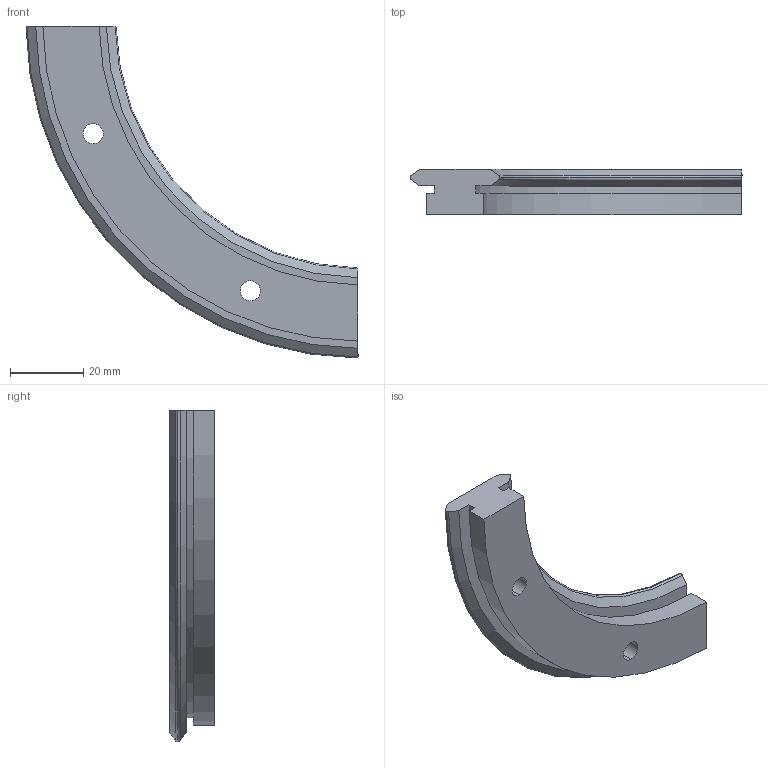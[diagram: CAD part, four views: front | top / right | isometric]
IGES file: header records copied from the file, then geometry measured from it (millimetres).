
Start section: 3D InterOp IGES (v. 2020 1.0.1), Spatial Corp. Copyright (c) 1999-2017.
Global section: file name: r25_159_r90.igs; native system: Spatial Corp.; preprocessor: 3D InterOp ACIS/IGES; author: TraceParts; organization: TraceParts S.A.; date: 20220624.025401; units: millimetre
Bounding box: 90.8 x 12.25 x 90.8 mm (x, y, z)
Surface area: 10271.8 mm2 (no closed solid volume)
Topology: 0 solids, 0 shells, 30 faces, 156 edges, 156 vertices
Faces by surface type: revolution 20, extrusion 10
